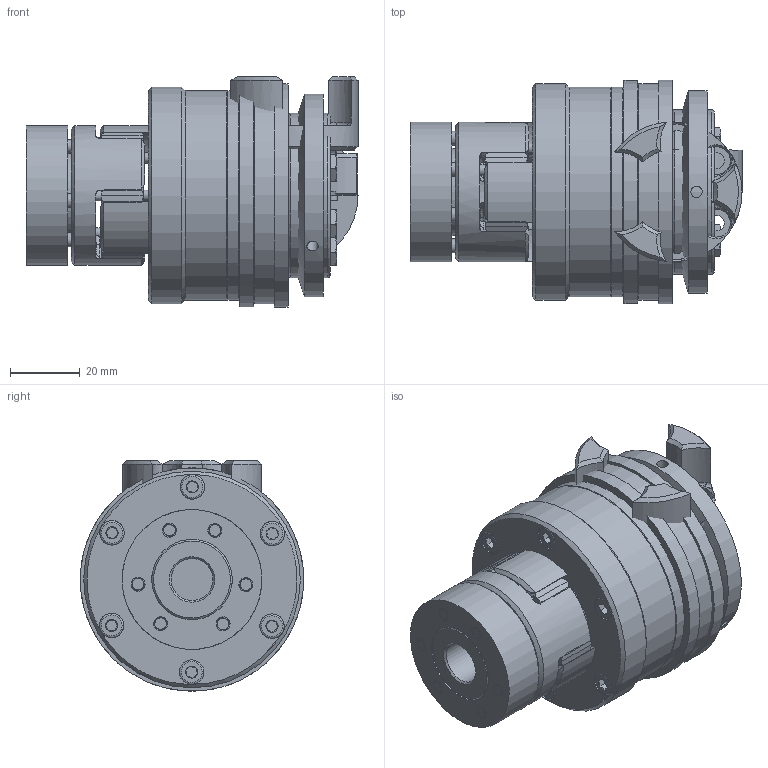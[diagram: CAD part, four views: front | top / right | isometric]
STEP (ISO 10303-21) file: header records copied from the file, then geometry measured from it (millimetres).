
FILE_DESCRIPTION( ( 'Unknown' ), '1' );
FILE_NAME( 'C:/Dokumente und Einstellungen/Sven/Desktop/hp kbk/E-AA/KBK EAA-19-91.stp', 'Unknown', ( 'Unknown' ), ( 'Unknown' ), 'XStep 1.0', 'Unknown', ' ' );
FILE_SCHEMA( ( 'automotive_design' ) );
Length unit declared in the file: millimetre
Products named in the file (17): Assem1; Assem2; ball_bearing_-_6005_0_01; ball_bearing_-_6005_0_02; ball_bearing_-_6005_0_03; Stellring 30; Druckring 30; a_25; Flansch L30; ISO EN DIN 4762_M4x16; KBE3-19_Druckring; Elastomerflansch 19; Zahnkranz_19_Standard; L-A-30 Grundkörper; Druckring L-A-30; din_en_24017_m5x16; KBE 3 C - 19_Nabe
Bounding box: 95 x 64 x 66 mm (x, y, z)
Volume: 294636.5 mm3; surface area: 163390.3 mm2
Topology: 49 solids, 49 shells, 1264 faces, 2778 edges, 1735 vertices
Faces by surface type: plane 463, cylinder 354, cone 309, torus 90, bspline 48
Full cylindrical faces by diameter (mm): 2 x4, 3 x12, 3.242 x18, 3.3 x18, 3.5 x13, 4 x26, 4.134 x12, 4.2 x12, 4.5 x12, 5 x7, 5.5 x12, 6.88 x7, 7 x25, 8 x14, 12 x4, 18 x4, 22 x2, 23.9 x2, 24.7 x2, 24.925 x2, 25 x7, 32 x6, 34 x2, 38 x4, 40 x6, 40.3 x6, 46 x2, 47 x7, 52 x2, 58 x2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
Entity records: 12862 total; most frequent: CARTESIAN_POINT 3282, DIRECTION 2034, ORIENTED_EDGE 1624, AXIS2_PLACEMENT_3D 932, EDGE_CURVE 812, EDGE_LOOP 692, VERTEX_POINT 588, FACE_OUTER_BOUND 545
